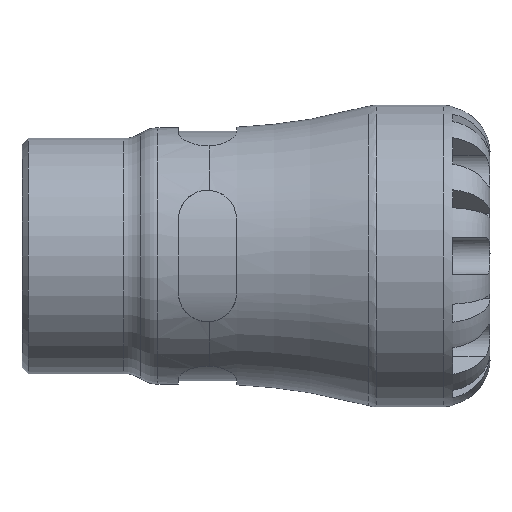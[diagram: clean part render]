
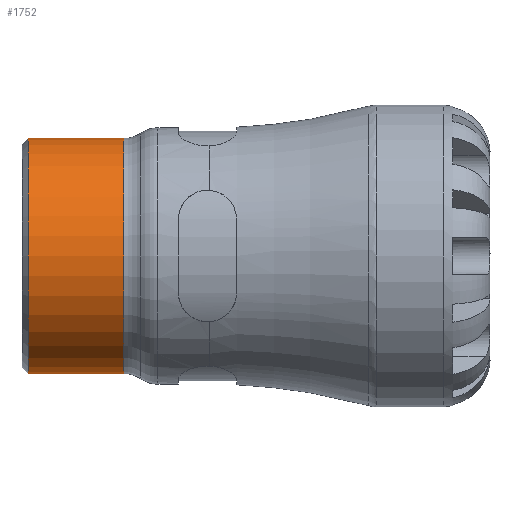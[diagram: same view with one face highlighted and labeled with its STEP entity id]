
A CAD part, front view. The second image highlights one B-rep face of the part: STEP entity #1752.
In plain terms, the highlighted cylindrical face has radius 22.62 mm (diameter 45.24 mm), a full revolution.
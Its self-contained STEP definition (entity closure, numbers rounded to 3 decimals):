
#257=FACE_BOUND('',#419,.T.);
#299=FACE_OUTER_BOUND('',#418,.T.);
#418=EDGE_LOOP('',(#1247));
#419=EDGE_LOOP('',(#1248));
#558=CIRCLE('',#1918,22.62);
#559=CIRCLE('',#1920,22.62);
#746=VERTEX_POINT('',#3045);
#747=VERTEX_POINT('',#3048);
#930=EDGE_CURVE('',#746,#746,#558,.T.);
#931=EDGE_CURVE('',#747,#747,#559,.T.);
#1247=ORIENTED_EDGE('',*,*,#931,.F.);
#1248=ORIENTED_EDGE('',*,*,#930,.F.);
#1593=CYLINDRICAL_SURFACE('',#1919,22.62);
#1752=ADVANCED_FACE('',(#299,#257),#1593,.T.);
#1918=AXIS2_PLACEMENT_3D('',#3046,#2229,#2230);
#1919=AXIS2_PLACEMENT_3D('',#3047,#2231,#2232);
#1920=AXIS2_PLACEMENT_3D('',#3049,#2233,#2234);
#2229=DIRECTION('center_axis',(-1.,0.,0.));
#2230=DIRECTION('ref_axis',(0.,-1.,0.));
#2231=DIRECTION('center_axis',(1.,0.,0.));
#2232=DIRECTION('ref_axis',(0.,1.,0.));
#2233=DIRECTION('center_axis',(1.,0.,0.));
#2234=DIRECTION('ref_axis',(0.,1.,0.));
#3045=CARTESIAN_POINT('',(1.169,22.62,0.));
#3046=CARTESIAN_POINT('Origin',(1.169,0.,0.));
#3047=CARTESIAN_POINT('Origin',(12.,0.,0.));
#3048=CARTESIAN_POINT('',(19.592,-22.62,0.));
#3049=CARTESIAN_POINT('Origin',(19.592,0.,0.));
